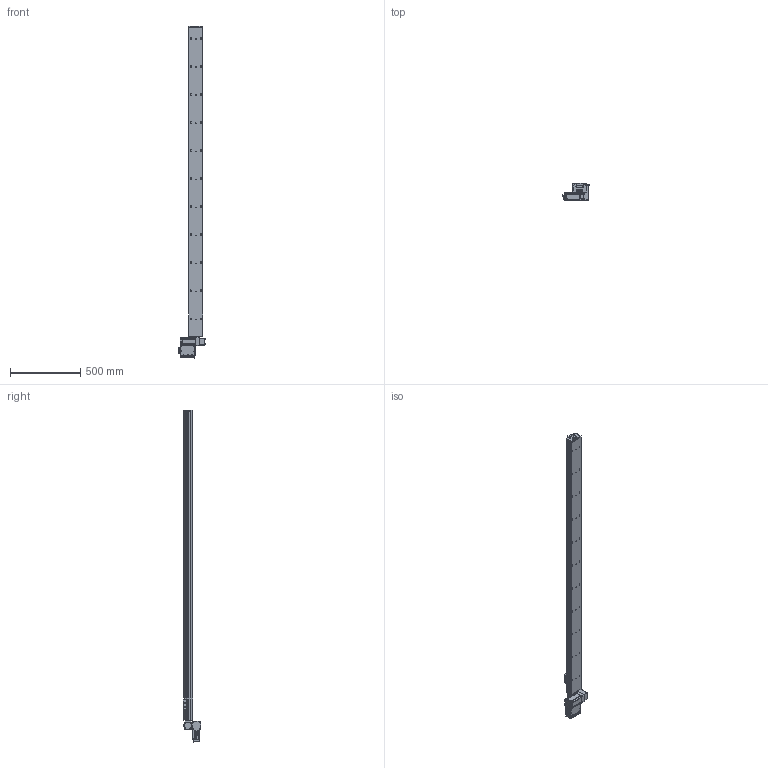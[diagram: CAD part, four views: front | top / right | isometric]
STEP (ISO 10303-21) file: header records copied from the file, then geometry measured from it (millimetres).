
FILE_DESCRIPTION (( 'STEP AP203' ), '1' );
FILE_NAME ('S10 TBN RH S2200.STEP', '2012-06-14T09:32:46', ( 'Conseil Régional Haute-Normandie' ), ( 'Conseil Régional Haute-Normandie' ), 'SwSTEP 2.0', 'SolidWorks 2010', '' );
FILE_SCHEMA (( 'CONFIG_CONTROL_DESIGN' ));
Length unit declared in the file: millimetre
Products named in the file (30): cache t皻e axe_Default; Cvis M5 L30_Default; renvoi LH_Default; Colonnette_3; T_X2_00F4_X0_le contre le moteur_5; BU41 Carte Alimentation P05_3; Connecteur rond D10 3cts_5; Connecteur rond D12 4cts_5; T_X2_00F4_X0_le lat_X2_00E9_X0_rale_5; Vis TF 3 torkx; S10 TBN RH S2200; axe 2200; Vis TF 3 torkx_1_1; embout; cache t皻e_Default; palette tbn; plaque de bout s10_Default; Plaque racord_Default; vis M5 L12_Default; Vis M5 L16-2_Default_1; vis M5 L5_Default; Assem1_7; BU45 Carte d''axe A11_5; Moteur 60BLDC90A_3; Couvercle_3; T_X2_00F4_X0_le fond_3; Sub D 9cts 90_X2_00B_X0__3; Radiateur profil_X2_00E9_X0_ 100x25_3; Colonnette ronde_3; T_X2_00F4_X0_le Arri_X2_00E8_X0_re_5
Assembly tree (69 placements, depth 3):
  S10 TBN RH S2200
    Vis TF 3 torkx  x7
    axe 2200
    Vis M5 L16-2_Default_1  x4
    vis M5 L5_Default  x4
    Plaque racord_Default
    Cvis M5 L30_Default  x2
    Assem1_7
      BU45 Carte d''axe A11_5
      Couvercle_3
      Sub D 9cts 90_X2_00B_X0__3
      Colonnette ronde_3
      Vis TF 3 torkx_1_1  x21
      T_X2_00F4_X0_le contre le moteur_5
      Colonnette_3  x2
      T_X2_00F4_X0_le lat_X2_00E9_X0_rale_5  x2
      T_X2_00F4_X0_le fond_3
      Moteur 60BLDC90A_3
      Connecteur rond D10 3cts_5  x2
      Connecteur rond D12 4cts_5
      Radiateur profil_X2_00E9_X0_ 100x25_3
      T_X2_00F4_X0_le Arri_X2_00E8_X0_re_5
      BU41 Carte Alimentation P05_3
    vis M5 L12_Default  x4
    cache t皻e axe_Default
    palette tbn
    plaque de bout s10_Default
    renvoi LH_Default
    embout
    cache t皻e_Default  x2
Bounding box: 189.8 x 124.75 x 2366.5 mm (x, y, z)
Volume: 12202879 mm3; surface area: 1336629.6 mm2
Topology: 68 solids, 68 shells, 2547 faces, 6316 edges, 4086 vertices
Faces by surface type: plane 1219, cylinder 1097, cone 188, bspline 40, torus 3
Entity records: 50252 total; most frequent: CARTESIAN_POINT 8994, DIRECTION 8131, ORIENTED_EDGE 7352, EDGE_CURVE 3676, AXIS2_PLACEMENT_3D 3034, VERTEX_POINT 2402, VECTOR 2063, LINE 2063
